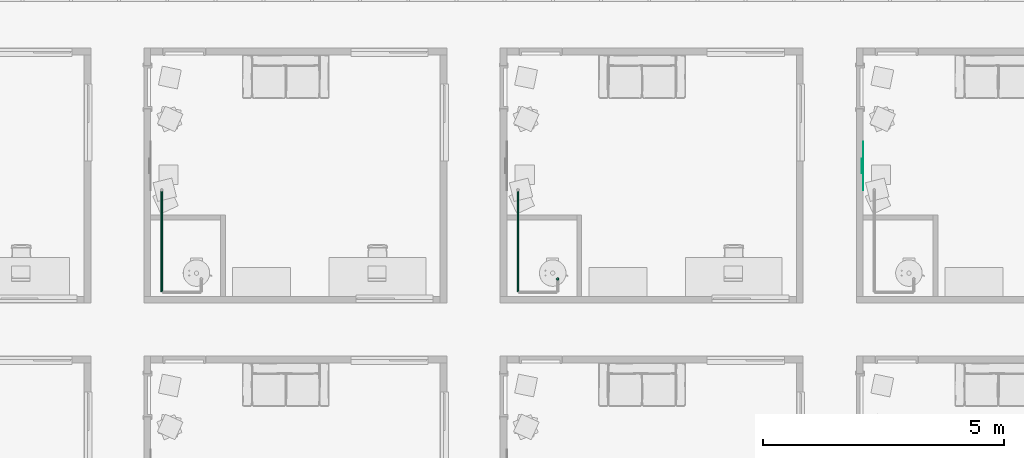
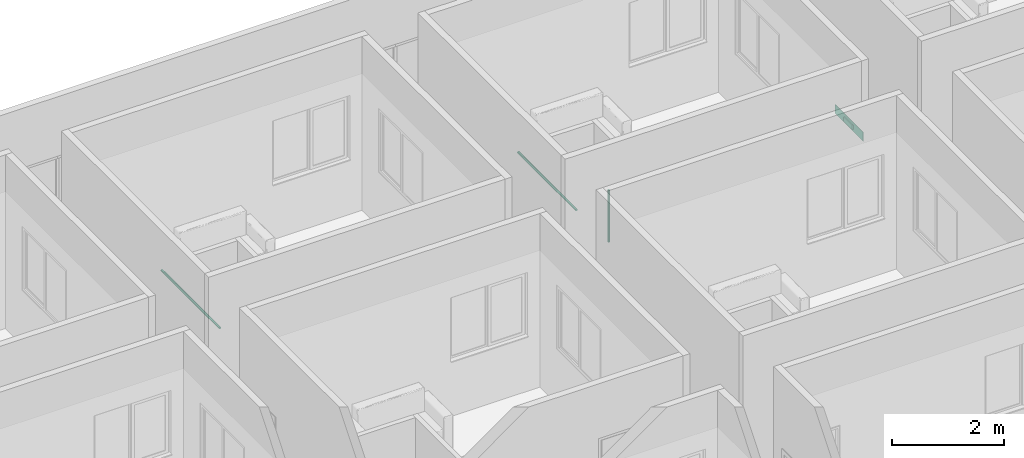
# One storey, part 31 of 71: 3 pipe segments, 1 air terminal.
"""IFC4 building model written with IfcOpenShell, lengths in centimetres."""

from ifc_helpers import new_model, entity, si_unit, converted_unit, derived_unit, direction, frame, origin, place, context, subcontext, project, spatial, arc, indexed_curve, outline, extrude, source, transform, mapped, material, constituent, constituent_set, type_object, type_shapes, element, save


model = new_model("IFC4")

# Units and contexts
model_context = context("Model", 3, precision=0.001, world=origin(), true_north=direction((6.123233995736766e-17, 1.0)))
body_context = subcontext(model_context, "Body", "Model", "MODEL_VIEW")
ifc_project = project(units=[si_unit("LENGTHUNIT", "METRE", prefix="CENTI"), si_unit("AREAUNIT", "SQUARE_METRE"), si_unit("VOLUMEUNIT", "CUBIC_METRE"), derived_unit("THERMALTRANSMITTANCEUNIT", [(si_unit("MASSUNIT", "GRAM", prefix="KILO"), 1), (si_unit("THERMODYNAMICTEMPERATUREUNIT", "KELVIN"), -1), (si_unit("TIMEUNIT", "SECOND"), -3)]), converted_unit("PLANEANGLEUNIT", "DEGREE", entity("IfcPlaneAngleMeasure", 0.017453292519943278), si_unit("PLANEANGLEUNIT", "RADIAN"), dimensions=[0, 0, 0, 0, 0, 0, 0]), derived_unit("MASSDENSITYUNIT", [(si_unit("MASSUNIT", "GRAM", prefix="KILO"), 1), (si_unit("LENGTHUNIT", "METRE"), -3)]), derived_unit("VAPORPERMEABILITYUNIT", [(si_unit("LENGTHUNIT", "METRE"), -1), (si_unit("TIMEUNIT", "SECOND"), 1)]), derived_unit("USERDEFINED", [(si_unit("MASSUNIT", "GRAM", prefix="KILO"), 1), (si_unit("TIMEUNIT", "SECOND"), -3), (si_unit("LENGTHUNIT", "METRE"), 3), (si_unit("ELECTRICCURRENTUNIT", "AMPERE"), -2)]), derived_unit("SPECIFICHEATCAPACITYUNIT", [(si_unit("THERMODYNAMICTEMPERATUREUNIT", "KELVIN"), -1), (si_unit("LENGTHUNIT", "METRE"), 2), (si_unit("TIMEUNIT", "SECOND"), -2)]), derived_unit("THERMALCONDUCTANCEUNIT", [(si_unit("MASSUNIT", "GRAM", prefix="KILO"), 1), (si_unit("THERMODYNAMICTEMPERATUREUNIT", "KELVIN"), -1), (si_unit("TIMEUNIT", "SECOND"), -3), (si_unit("LENGTHUNIT", "METRE"), 1)]), si_unit("PRESSUREUNIT", "PASCAL"), derived_unit("MODULUSOFELASTICITYUNIT", [(si_unit("MASSUNIT", "GRAM", prefix="KILO"), 1), (si_unit("LENGTHUNIT", "METRE"), -1), (si_unit("TIMEUNIT", "SECOND"), -2)]), derived_unit("THERMALEXPANSIONCOEFFICIENTUNIT", [(si_unit("THERMODYNAMICTEMPERATUREUNIT", "KELVIN"), -1)])], contexts=[model_context])

# Site, building, storey, space
site_placement = place(None, origin())
site = spatial("IfcSite", under=ifc_project, at=site_placement, Name="Default", CompositionType="ELEMENT")
building_placement = place(site_placement, origin())
building = spatial("IfcBuilding", under=site, at=building_placement, Name="IDS Escape Game Building", CompositionType="ELEMENT")
storey_placement = place(building_placement, frame((0.0, 0.0, 400.0)))
storey = spatial("IfcBuildingStorey", under=building, at=storey_placement, Name="01_First Floor", CompositionType="ELEMENT", Elevation=399.99999999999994)
space_placement = place(storey_placement, origin())
space = spatial("IfcSpace", under=storey, at=space_placement, Name="68", CompositionType="ELEMENT", PredefinedType="NOTDEFINED")

# Air terminal
ifc_material_1 = material(Name="TB_LVC_referentievlak_00_gen_BERSnl", Category="BE Default")
ifc_constituent_1 = constituent(ifc_material_1, Name="TB_LVC_referentievlak_00_gen_BERSnl", Category="BE Default", fraction=0.00014157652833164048)
ifc_material_2 = material(Name="ARC_FME.h2_staal_00_gen_BERSnl", Category="h - metaal")
ifc_constituent_2 = constituent(ifc_material_2, Name="ARC_FME.h2_staal_00_gen_BERSnl", Category="h - metaal", fraction=0.9998584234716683)
ifc_constituent_set_1 = constituent_set(constituents=[ifc_constituent_1, ifc_constituent_2])
ifc_constituent_3 = constituent(ifc_material_1, Name="BE Referentievlak", Category="BE Default", fraction=0.00014157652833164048)
ifc_constituent_4 = constituent(ifc_material_2, Name="Terminals", Category="h - metaal", fraction=0.9998584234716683)
ifc_constituent_set_2 = constituent_set(constituents=[ifc_constituent_3, ifc_constituent_4])
air_terminal_type = type_object("IfcAirTerminalType", Name="TB_57_AIR_FB_aanzuigrooster - 1 rechthoekige aansluiting - calculated flow_gen_BERSnl:Air Terminal - Exhaust", PredefinedType="GRILLE", material=ifc_constituent_set_2)
shared_shape = source(origin(), body_context, "Body", "SweptSolid", [
    extrude(outline(indexed_curve([(-0.5, -2.0290176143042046e-15), (6.8507733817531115e-16, -0.5000000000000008), (0.5, 2.0290176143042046e-15), (-5.361679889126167e-16, 0.49999999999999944)], segments=[arc(1, 2, 3), arc(3, 4, 1)], self_intersect=False)), frame((0.0, 0.0, 0.0), z_axis=(1.7453292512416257e-05, 0.0, 1.0), x_axis=(0.0, 1.0, 0.0)), (0.0, 0.0, 1.0), 0.09999999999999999),
    extrude(outline(indexed_curve([(-14.900000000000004, -4.9), (14.900000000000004, -4.9), (14.900000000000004, 4.9), (-14.900000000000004, 4.9), (-14.900000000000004, -4.9)], self_intersect=False)), frame((-4.886921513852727e-05, 0.0, -2.7999999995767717)), (0.0, 0.0, 1.0), 2.7999999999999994),
    extrude(outline(indexed_curve([(-50.0, -10.0), (50.0, -10.0), (50.0, 10.0), (-50.0, 10.0), (-50.0, -10.0)], self_intersect=False)), frame((0.0, 0.0, 0.0), z_axis=(0.0, 0.0, 1.0), x_axis=(-1.0, 0.0, 0.0)), (0.0, 0.0, 1.0), 0.6999999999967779),
])
type_shapes(air_terminal_type, [shared_shape])
air_terminal_placement = place(space_placement, frame((2959.0, 2835.0, 24.0), z_axis=(1.0, 0.0, 0.0), x_axis=(0.0, 1.0, 0.0)))
element("IfcAirTerminal", 1, at=air_terminal_placement, inside=space, type_object=air_terminal_type, material=ifc_constituent_set_1, Name="TB_57_AIR_FB_aanzuigrooster - 1 rechthoekige aansluiting - calculated flow_gen_BERSnl:Air Terminal - Exhaust", ObjectType="TB_57_AIR_FB_aanzuigrooster - 1 rechthoekige aansluiting - calculated flow_gen_BERSnl:Air Terminal - Exhaust", PredefinedType="GRILLE", context=body_context, shape_type="MappedRepresentation", body=[
    mapped(shared_shape, transform((0.0, 0.0, 0.0), scale=1.0)),
])

# Pipe segments
pipe_segment_type = type_object("IfcPipeSegmentType", Name="Pipe Types:Piping Aluminum", PredefinedType="NOTDEFINED")
pipe_segment_1_placement = place(storey_placement, origin())
element("IfcPipeSegment", 2, at=pipe_segment_1_placement, inside=storey, type_object=pipe_segment_type, Name="Pipe Types:Piping Aluminum", ObjectType="Pipe Types:Piping Aluminum", PredefinedType="NOTDEFINED", context=body_context, shape_type="SweptSolid", body=[
    extrude(outline(indexed_curve([(2.412999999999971, 0.0), (1.7062486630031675, 1.7062486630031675), (0.0, 2.412999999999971), (-1.7062486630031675, 1.7062486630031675), (-2.412999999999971, 0.0), (-1.7062486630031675, -1.7062486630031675), (0.0, -2.412999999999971), (1.7062486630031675, -1.7062486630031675)], segments=[arc(1, 2, 3), arc(3, 4, 5), arc(5, 6, 7), arc(7, 8, 1)], self_intersect=False)), frame((1506.0467168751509, 2574.3648279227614, 242.0), z_axis=(0.0, 1.0, 0.0), x_axis=(1.0, 0.0, 0.0)), (0.0, 0.0, 1.0), 208.80000000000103),
])
pipe_segment_2_placement = place(storey_placement, origin())
element("IfcPipeSegment", 3, at=pipe_segment_2_placement, inside=storey, type_object=pipe_segment_type, Name="Pipe Types:Piping Aluminum", ObjectType="Pipe Types:Piping Aluminum", PredefinedType="NOTDEFINED", context=body_context, shape_type="SweptSolid", body=[
    extrude(outline(indexed_curve([(2.412999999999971, 0.0), (1.7062486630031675, 1.7062486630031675), (0.0, 2.412999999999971), (-1.7062486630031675, 1.7062486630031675), (-2.412999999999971, 0.0), (-1.7062486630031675, -1.7062486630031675), (0.0, -2.412999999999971), (1.7062486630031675, -1.7062486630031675)], segments=[arc(1, 2, 3), arc(3, 4, 5), arc(5, 6, 7), arc(7, 8, 1)], self_intersect=False)), frame((2326.150000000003, 2600.9000000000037, 128.0), z_axis=(0.0, 0.0, 1.0), x_axis=(-1.0, 0.0, 0.0)), (0.0, 0.0, 1.0), 112.90000000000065),
])
pipe_segment_3_placement = place(storey_placement, origin())
element("IfcPipeSegment", 4, at=pipe_segment_3_placement, inside=storey, type_object=pipe_segment_type, Name="Pipe Types:Piping Aluminum", ObjectType="Pipe Types:Piping Aluminum", PredefinedType="NOTDEFINED", context=body_context, shape_type="SweptSolid", body=[
    extrude(outline(indexed_curve([(2.412999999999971, 0.0), (1.7062486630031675, 1.7062486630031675), (0.0, 2.412999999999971), (-1.7062486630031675, 1.7062486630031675), (-2.412999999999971, 0.0), (-1.7062486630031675, -1.7062486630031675), (0.0, -2.412999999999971), (1.7062486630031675, -1.7062486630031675)], segments=[arc(1, 2, 3), arc(3, 4, 5), arc(5, 6, 7), arc(7, 8, 1)], self_intersect=False)), frame((2244.0467168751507, 2574.3648279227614, 242.0), z_axis=(0.0, 1.0, 0.0), x_axis=(1.0, 0.0, 0.0)), (0.0, 0.0, 1.0), 208.80000000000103),
])

save(model, "model.ifc")
